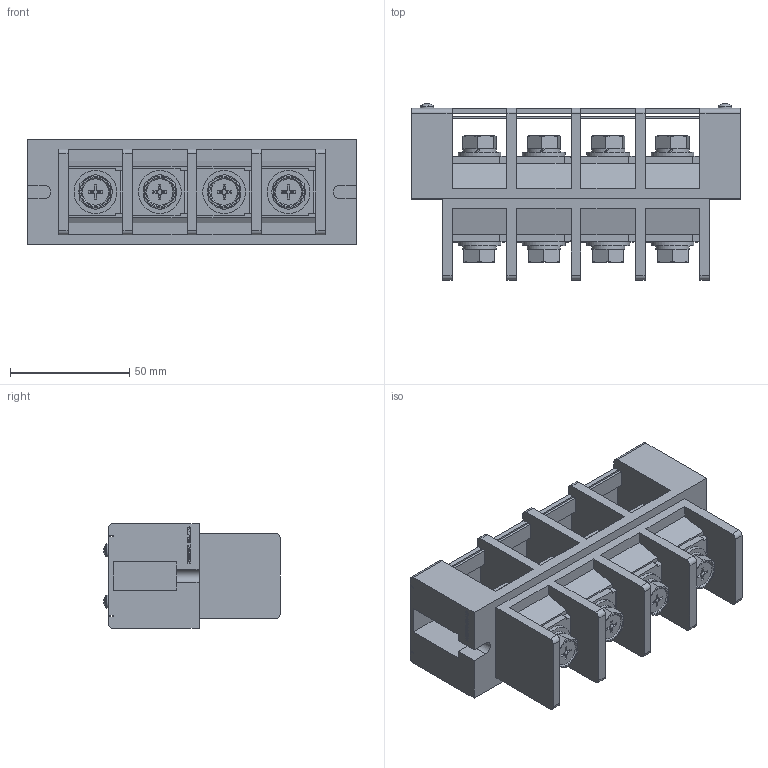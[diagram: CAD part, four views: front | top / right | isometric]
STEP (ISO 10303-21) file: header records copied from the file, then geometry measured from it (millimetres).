
FILE_DESCRIPTION(/* description */ ('Alibre Inc.'),/* implementation_level */ '2;1');
FILE_NAME(/* name */ 'export0',/* time_stamp */ '2016-04-05T18:36:05+09:00',/* author */ (''),/* organization */ (''),/* preprocessor_version */ 'ST-DEVELOPER v14',/* originating_system */ 'Alibre',/* authorisation */ '');
FILE_SCHEMA (('CONFIG_CONTROL_DESIGN'));
Length unit declared in the file: centimetre
Products named in the file (1): ID_1
Bounding box: 138 x 73.94 x 44 mm (x, y, z)
Volume: 167936.4 mm3; surface area: 72990.1 mm2
Topology: 2 solids, 4 shells, 902 faces, 2447 edges, 1580 vertices
Faces by surface type: plane 670, cone 104, cylinder 72, bspline 52, sphere 2, torus 2
Full cylindrical faces by diameter (mm): 3 x4, 5.5 x2, 8 x8, 18 x8
Entity records: 25734 total; most frequent: CARTESIAN_POINT 5230, ORIENTED_EDGE 4794, DIRECTION 3208, EDGE_CURVE 2397, VERTEX_POINT 1570, VECTOR 1554, LINE 1554, AXIS2_PLACEMENT_3D 1114
